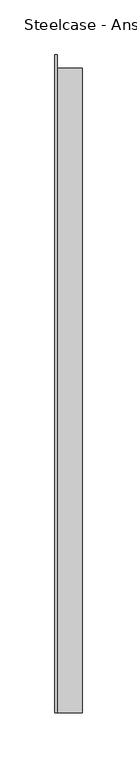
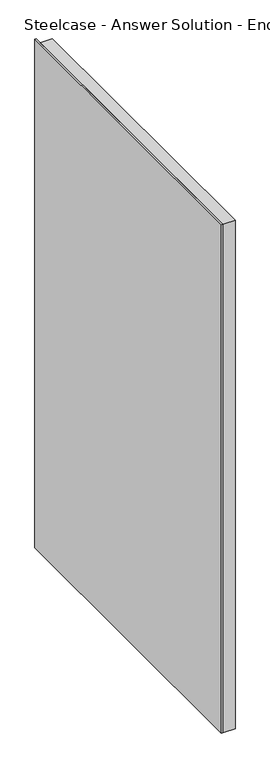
"""IFC4 building model written with IfcOpenShell, lengths in millimetres: furniture geometry, Steelcase - Answer Solution - End Panel - Standing Height : 24in - Left."""

from ifc_helpers import new_model, si_unit, origin, origin_with_axes, place, context, project, spatial, polyline, outline, extrude, source, transform, mapped, element, save


def steelcase_answer_solution_end_panel_standing_height_24in_e54e53b6(model_context):
    return source(origin(), model_context, "Body", "SweptSolid", [
        extrude(outline(polyline([(2.5401938, 0.0), (2.5401938, -603.25), (0.0001938, -603.25), (0.0001938, 0.0), (2.5401938, 0.0)])), origin_with_axes(), (0.0, 0.0, 1.0), 1003.4143341),
        extrude(outline(polyline([(25.4001938, -12.7032217), (25.4001938, -603.25), (2.5401938, -603.25), (2.5401938, -12.7032217), (25.4001938, -12.7032217)])), origin_with_axes(), (0.0, 0.0, 1.0), 1003.4143341),
    ])


if __name__ == "__main__":
    model = new_model("IFC4")
    model_context = context("Model", 3, world=origin())
    ifc_project = project(units=[si_unit("LENGTHUNIT", "METRE", prefix="MILLI")], contexts=[model_context])
    site = spatial("IfcSite", under=ifc_project)
    building = spatial("IfcBuilding", under=site)
    placement = place(None, origin())
    steelcase_answer_solution_end_panel_standing_height_24in_shape = steelcase_answer_solution_end_panel_standing_height_24in_e54e53b6(model_context)
    element("IfcFurniture", 1, ObjectType="Steelcase - Answer Solution - End Panel - Standing Height : 24in - Left", at=placement, inside=building, context=model_context, shape_type="MappedRepresentation", body=[
        mapped(steelcase_answer_solution_end_panel_standing_height_24in_shape, transform((0.0, 0.0, 0.0), x_axis=(1.0, 0.0, 0.0), y_axis=(0.0, 1.0, 0.0), z_axis=(0.0, 0.0, 1.0))),
    ])
    save(model, "model.ifc")
